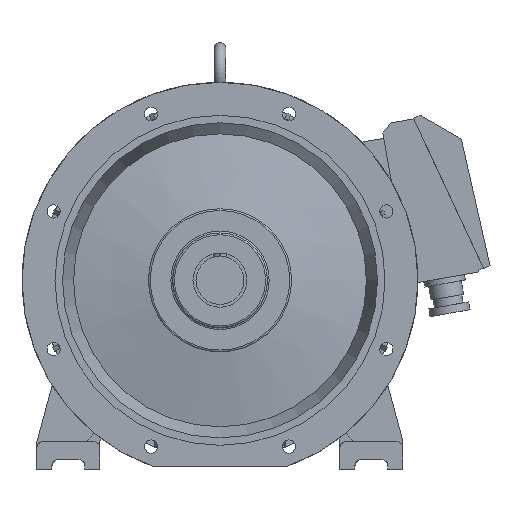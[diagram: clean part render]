
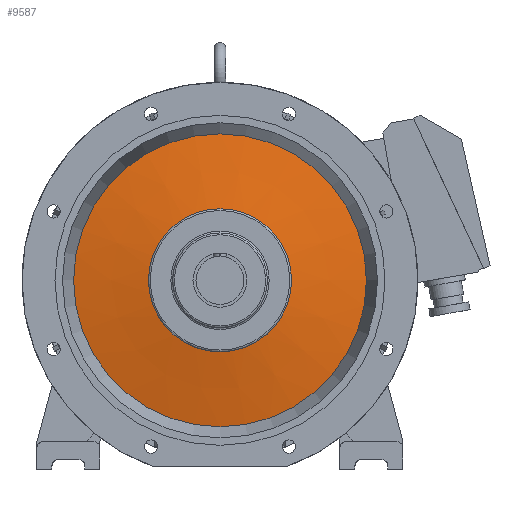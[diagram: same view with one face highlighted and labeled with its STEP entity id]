
A CAD part, front view. The second image highlights one B-rep face of the part: STEP entity #9587.
In plain terms, the highlighted conical face has half-angle 79.949 degrees and reference radius 119.265 mm.
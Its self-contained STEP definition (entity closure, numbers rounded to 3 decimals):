
#36=CONICAL_SURFACE('',#10331,119.265,1.395);
#349=CIRCLE('',#10330,119.265);
#350=CIRCLE('',#10332,244.069);
#1187=ORIENTED_EDGE('',*,*,#3861,.T.);
#1188=ORIENTED_EDGE('',*,*,#3860,.F.);
#3860=EDGE_CURVE('',#5172,#5172,#349,.T.);
#3861=EDGE_CURVE('',#5173,#5173,#350,.T.);
#5172=VERTEX_POINT('',#17322);
#5173=VERTEX_POINT('',#17325);
#7954=EDGE_LOOP('',(#1187));
#7955=EDGE_LOOP('',(#1188));
#8582=FACE_BOUND('',#7954,.T.);
#8583=FACE_BOUND('',#7955,.T.);
#9587=ADVANCED_FACE('',(#8582,#8583),#36,.T.);
#10330=AXIS2_PLACEMENT_3D('',#17321,#11796,#11797);
#10331=AXIS2_PLACEMENT_3D('',#17323,#11798,#11799);
#10332=AXIS2_PLACEMENT_3D('',#17324,#11800,#11801);
#11796=DIRECTION('',(0.,-1.,0.));
#11797=DIRECTION('',(1.,0.,0.));
#11798=DIRECTION('',(0.,1.,0.));
#11799=DIRECTION('',(-1.,0.,0.));
#11800=DIRECTION('',(0.,-1.,0.));
#11801=DIRECTION('',(1.,0.,0.));
#17321=CARTESIAN_POINT('',(0.,212.516,0.));
#17322=CARTESIAN_POINT('',(119.265,212.516,0.));
#17323=CARTESIAN_POINT('',(0.,212.516,0.));
#17324=CARTESIAN_POINT('',(0.,234.637,0.));
#17325=CARTESIAN_POINT('',(244.069,234.637,0.));
